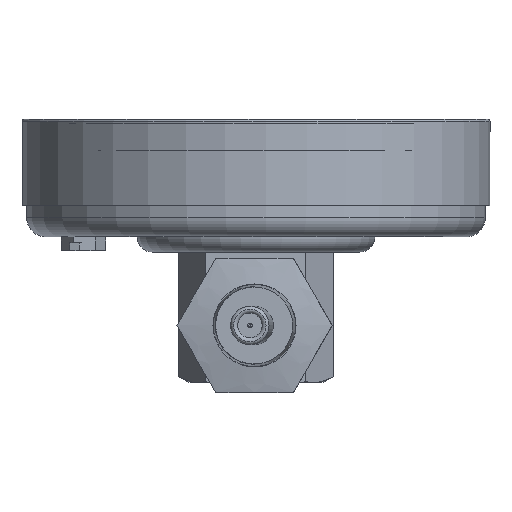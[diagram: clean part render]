
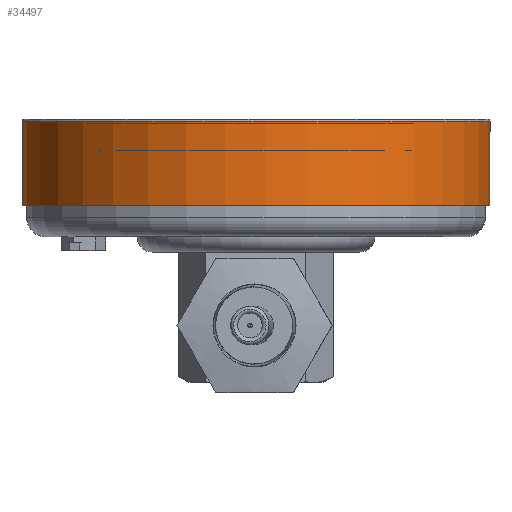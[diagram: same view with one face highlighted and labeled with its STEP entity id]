
A CAD part, front view. The second image highlights one B-rep face of the part: STEP entity #34497.
In plain terms, the highlighted cylindrical face has radius 38.735 mm (diameter 77.47 mm), a full revolution.
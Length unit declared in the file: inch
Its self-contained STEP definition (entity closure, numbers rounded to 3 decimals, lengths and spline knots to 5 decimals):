
#40=CYLINDRICAL_SURFACE($,#36101,1.525);
#776=FACE_BOUND($,#14018,.T.);
#12009=FACE_OUTER_BOUND($,#14017,.T.);
#14017=EDGE_LOOP($,(#28592));
#14018=EDGE_LOOP($,(#28593));
#14856=CIRCLE($,#36099,1.525);
#14858=CIRCLE($,#36102,1.525);
#16836=VERTEX_POINT($,#51720);
#16838=VERTEX_POINT($,#51725);
#20967=EDGE_CURVE($,#16836,#16836,#14856,.T.);
#20969=EDGE_CURVE($,#16838,#16838,#14858,.T.);
#28592=ORIENTED_EDGE($,*,*,#20969,.F.);
#28593=ORIENTED_EDGE($,*,*,#20967,.F.);
#34497=ADVANCED_FACE($,(#12009,#776),#40,.T.);
#36099=AXIS2_PLACEMENT_3D($,#51721,#40830,#40831);
#36101=AXIS2_PLACEMENT_3D($,#51724,#40834,#40835);
#36102=AXIS2_PLACEMENT_3D($,#51726,#40836,#40837);
#40830=DIRECTION('center_axis',(0.,0.,
-1.));
#40831=DIRECTION('ref_axis',(-0.843,-0.537,0.));
#40834=DIRECTION('center_axis',(0.,0.,
-1.));
#40835=DIRECTION('ref_axis',(0.843,0.537,0.));
#40836=DIRECTION('center_axis',(0.,0.,
1.));
#40837=DIRECTION('ref_axis',(-0.843,-0.537,0.));
#51720=CARTESIAN_POINT('',(3.68358,4.46557,7.28296));
#51721=CARTESIAN_POINT('Origin',(2.39758,3.64592,7.28296));
#51724=CARTESIAN_POINT('Origin',(2.39758,3.64592,7.56446));
#51725=CARTESIAN_POINT('',(3.68358,4.46557,7.83059));
#51726=CARTESIAN_POINT('Origin',(2.39758,3.64592,7.83059));
